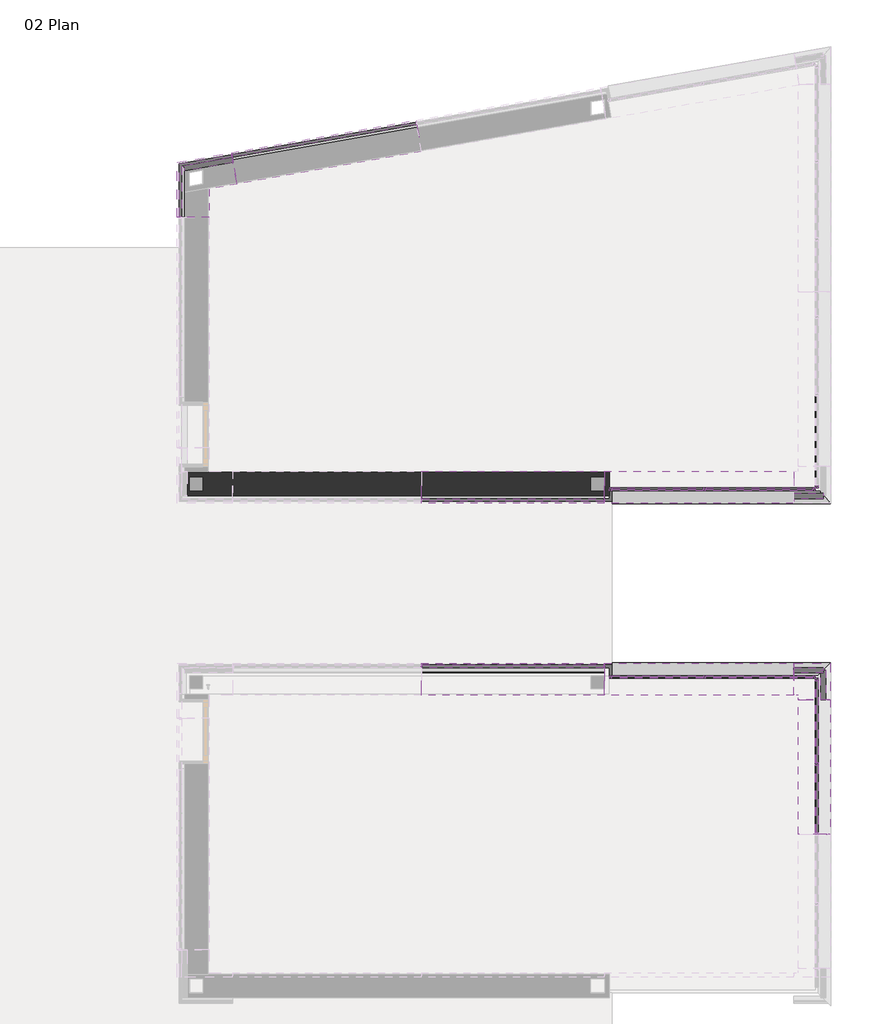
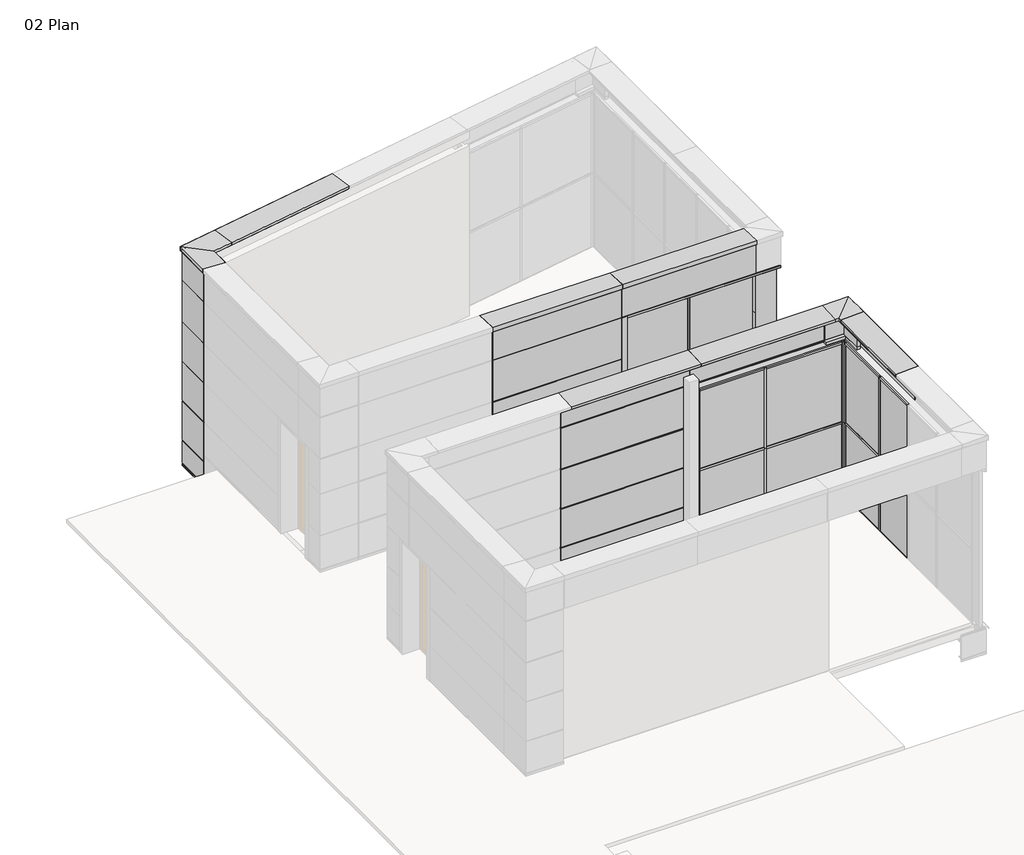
# One storey, part 4 of 6: 61 plates, 37 members, 1 wall.
"""IFC4 building model written with IfcOpenShell, lengths in millimetres."""

from ifc_helpers import new_model, si_unit, origin, place, context, project, spatial, faceted_brep, transform, mapped, element, save
from components import rectangular_mullion_850a0757, rectangular_mullion_f6f2cbce, rectangular_mullion_ae489d37, rectangular_mullion_d40b3f67, rectangular_mullion_73658c05, rectangular_mullion_dec3059a, rectangular_mullion_8c95c825, rectangular_mullion_4ec2ad2f, rectangular_mullion_5c014fa2, rectangular_mullion_20e4ea45, rectangular_mullion_1e400ac7, rectangular_mullion_d3216087, rectangular_mullion_e5955efa, rectangular_mullion_9c751ba5, rectangular_mullion_915eebd7, rectangular_mullion_7ea7b6c0, rectangular_mullion_18d90422, rectangular_mullion_4bf08ba9, rectangular_mullion_1d8641f2, rectangular_mullion_ccb72c30, rectangular_mullion_8513d4ac, rectangular_mullion_322f0c36, rectangular_mullion_68da8427, rectangular_mullion_97cb3080, rectangular_mullion_081bc27d, rectangular_mullion_9cc617ca, rectangular_mullion_58775510, rectangular_mullion_3e4a82b6, rectangular_mullion_f88d7aad, plate_0497feba, plate_c64032ae, plate_704d47aa, plate_30a3f86a, plate_11fb3f57, plate_91b26778, plate_29d679cd, plate_2e54694b, plate_18e4d27f, plate_f7d04e19, plate_cf421904, plate_abbbe2c7, plate_b156121b, plate_823f188f, plate_e577e1e9, plate_9de24f4d, plate_b22128cc, plate_28179449, plate_606b7d7a, plate_b5698dad, plate_fc41ddc2, plate_e0b0e254, plate_5e6c4082, plate_6787bb24, plate_fdcfd50b, plate_71536b31, plate_9f02b672, empty_system_panel_empty_c6afd72d, empty_system_panel_empty_4e5cc90e, empty_system_panel_empty_e38a5639, empty_system_panel_empty_b9b0326a, empty_system_panel_empty_57776d45, empty_system_panel_empty_753c3ce6, empty_system_panel_empty_65695ee9, empty_system_panel_empty_4853594d, empty_system_panel_empty_b67399a0, empty_system_panel_empty_cdaa3545, empty_system_panel_empty_c7119242, empty_system_panel_empty_4b1068c0, empty_system_panel_empty_4c92e43b, system_panel_916e9981, system_panel_173fee60, system_panel_1ba0b192, system_panel_117f5864, system_panel_15604cb6, system_panel_7d814cf8, system_panel_043df903, system_panel_e44423fa, system_panel_fa37fecd, system_panel_72380739, system_panel_35b3a540, system_panel_2c5456f6

model = new_model("IFC4")

# Units and contexts
model_context = context("Model", 3, world=origin())
ifc_project = project(units=[si_unit("LENGTHUNIT", "METRE", prefix="MILLI")], contexts=[model_context])

# Site, building, storey
site = spatial("IfcSite", under=ifc_project)
building = spatial("IfcBuilding", under=site)
storey = spatial("IfcBuildingStorey", under=building, Name="02 Plan", Elevation=0.0)

# Members
placement = place(None, origin())
rectangular_mullion_shape = rectangular_mullion_850a0757(model_context)
element("IfcMember", 1, ObjectType="Rectangular Mullion : Mullion_Curtain Wall_Generic Showcase_50x50mm", at=placement, inside=storey, context=model_context, shape_type="MappedRepresentation", body=[
    mapped(rectangular_mullion_shape, transform((7950.6615063, 2995.5895435, -100.0), x_axis=(1.0, 0.0, 0.0), y_axis=(0.0, -1.0, 0.0), z_axis=(0.0, 0.0, -1.0))),
])
element("IfcMember", 2, ObjectType="Rectangular Mullion : Mullion_Curtain Wall_Generic Showcase_50x50mm", at=placement, inside=storey, context=model_context, shape_type="MappedRepresentation", body=[
    mapped(rectangular_mullion_shape, transform((8000.6615063, 2945.5895435, 2075.0), x_axis=(0.0, 1.0, 0.0), y_axis=(-1.0, 0.0, 0.0), z_axis=(0.0, 0.0, 1.0))),
])
element("IfcMember", 3, ObjectType="Rectangular Mullion : Mullion_Curtain Wall_Generic Showcase_50x50mm", at=placement, inside=storey, context=model_context, shape_type="MappedRepresentation", body=[
    mapped(rectangular_mullion_shape, transform((4050.6615063, 2995.5895435, 2075.0), x_axis=(-1.0, 0.0, 0.0), y_axis=(0.0, -1.0, 0.0), z_axis=(0.0, 0.0, 1.0))),
])
rectangular_mullion_2_shape = rectangular_mullion_f6f2cbce(model_context)
element("IfcMember", 4, ObjectType="Rectangular Mullion : Mullion_Curtain Wall_Generic Showcase_50x50mm", at=placement, inside=storey, context=model_context, shape_type="MappedRepresentation", body=[
    mapped(rectangular_mullion_2_shape, transform((8000.6615063, 6545.5895435, 2075.0), x_axis=(0.0, -1.0, 0.0), y_axis=(1.0, 0.0, 0.0), z_axis=(0.0, 0.0, 1.0))),
])
rectangular_mullion_3_shape = rectangular_mullion_ae489d37(model_context)
element("IfcMember", 5, ObjectType="Rectangular Mullion : Mullion_Curtain Wall_Generic Showcase_50x50mm", at=placement, inside=storey, context=model_context, shape_type="MappedRepresentation", body=[
    mapped(rectangular_mullion_3_shape, transform((7950.6615063, 6495.5895435, -100.0), x_axis=(1.0, 0.0, 0.0), y_axis=(0.0, -1.0, 0.0), z_axis=(0.0, 0.0, -1.0))),
])
element("IfcMember", 6, ObjectType="Rectangular Mullion : Mullion_Curtain Wall_Generic Showcase_50x50mm", at=placement, inside=storey, context=model_context, shape_type="MappedRepresentation", body=[
    mapped(rectangular_mullion_3_shape, transform((4050.6615063, 6495.5895435, 1975.0), x_axis=(-1.0, 0.0, 0.0), y_axis=(0.0, -1.0, 0.0), z_axis=(0.0, 0.0, 1.0))),
])
rectangular_mullion_4_shape = rectangular_mullion_d40b3f67(model_context)
element("IfcMember", 7, ObjectType="Rectangular Mullion : Mullion_Curtain Wall_Generic Showcase_50x50mm", at=placement, inside=storey, context=model_context, shape_type="MappedRepresentation", body=[
    mapped(rectangular_mullion_4_shape, transform((8000.6615063, 1320.5895435, -100.0), x_axis=(0.0, -1.0, 0.0), y_axis=(-1.0, 0.0, 0.0), z_axis=(0.0, 0.0, -1.0))),
])
element("IfcMember", 8, ObjectType="Rectangular Mullion : Mullion_Curtain Wall_Generic Showcase_50x50mm", at=placement, inside=storey, context=model_context, shape_type="MappedRepresentation", body=[
    mapped(rectangular_mullion_4_shape, transform((5850.6615063, 2995.5895435, -100.0), x_axis=(1.0, 0.0, 0.0), y_axis=(0.0, -1.0, 0.0), z_axis=(0.0, 0.0, -1.0))),
])
rectangular_mullion_5_shape = rectangular_mullion_73658c05(model_context)
element("IfcMember", 9, ObjectType="Rectangular Mullion : Mullion_Curtain Wall_Generic Showcase_50x50mm", at=placement, inside=storey, context=model_context, shape_type="MappedRepresentation", body=[
    mapped(rectangular_mullion_5_shape, transform((5825.6615063, 2995.5895435, 4350.0), x_axis=(0.0, 0.0, 1.0), y_axis=(0.0, -1.0, 0.0), z_axis=(1.0, 0.0, 0.0))),
])
rectangular_mullion_6_shape = rectangular_mullion_dec3059a(model_context)
element("IfcMember", 10, ObjectType="Rectangular Mullion : Mullion_Curtain Wall_Generic Showcase_50x100mm", at=placement, inside=storey, context=model_context, shape_type="MappedRepresentation", body=[
    mapped(rectangular_mullion_6_shape, transform((4100.6615063, 2995.5895435, -100.0), x_axis=(0.0, 0.0, -1.0), y_axis=(0.0, -1.0, 0.0), z_axis=(-1.0, 0.0, 0.0))),
])
rectangular_mullion_7_shape = rectangular_mullion_8c95c825(model_context)
element("IfcMember", 11, ObjectType="Rectangular Mullion : Mullion_Curtain Wall_Generic Showcase_50x50mm", at=placement, inside=storey, context=model_context, shape_type="MappedRepresentation", body=[
    mapped(rectangular_mullion_7_shape, transform((5825.6615063, 2995.5895435, 2075.0), x_axis=(0.0, 0.0, 1.0), y_axis=(0.0, -1.0, 0.0), z_axis=(1.0, 0.0, 0.0))),
])
rectangular_mullion_8_shape = rectangular_mullion_4ec2ad2f(model_context)
element("IfcMember", 12, ObjectType="Rectangular Mullion : Mullion_Curtain Wall_Generic Showcase_50x100mm", at=placement, inside=storey, context=model_context, shape_type="MappedRepresentation", body=[
    mapped(rectangular_mullion_8_shape, transform((4100.6615063, 6495.5895435, -100.0), x_axis=(0.0, 0.0, -1.0), y_axis=(0.0, -1.0, 0.0), z_axis=(-1.0, 0.0, 0.0))),
])
rectangular_mullion_9_shape = rectangular_mullion_5c014fa2(model_context)
element("IfcMember", 13, ObjectType="Rectangular Mullion : Mullion_Curtain Wall_Generic Showcase_50x50mm", at=placement, inside=storey, context=model_context, shape_type="MappedRepresentation", body=[
    mapped(rectangular_mullion_9_shape, transform((5825.6615063, 6495.5895435, 1975.0), x_axis=(0.0, 0.0, 1.0), y_axis=(0.0, -1.0, 0.0), z_axis=(1.0, 0.0, 0.0))),
])
rectangular_mullion_10_shape = rectangular_mullion_20e4ea45(model_context)
element("IfcMember", 14, ObjectType="Rectangular Mullion : Mullion_Curtain Wall_Generic Showcase_50x50mm", at=placement, inside=storey, context=model_context, shape_type="MappedRepresentation", body=[
    mapped(rectangular_mullion_10_shape, transform((5825.6615063, 6495.5895435, 4350.0), x_axis=(0.0, 0.0, 1.0), y_axis=(0.0, -1.0, 0.0), z_axis=(1.0, 0.0, 0.0))),
])
rectangular_mullion_11_shape = rectangular_mullion_1e400ac7(model_context)
element("IfcMember", 15, ObjectType="Rectangular Mullion : Mullion_Curtain Wall_Generic Showcase_50x50mm", at=placement, inside=storey, context=model_context, shape_type="MappedRepresentation", body=[
    mapped(rectangular_mullion_11_shape, transform((5850.6615063, 6495.5895435, -100.0), x_axis=(1.0, 0.0, 0.0), y_axis=(0.0, -1.0, 0.0), z_axis=(0.0, 0.0, -1.0))),
])
rectangular_mullion_12_shape = rectangular_mullion_d3216087(model_context)
element("IfcMember", 16, ObjectType="Rectangular Mullion : Mullion_Curtain Wall_Generic Showcase_50x50mm", at=placement, inside=storey, context=model_context, shape_type="MappedRepresentation", body=[
    mapped(rectangular_mullion_12_shape, transform((8000.6615063, 20.5895435, 4350.0), x_axis=(0.0, 0.0, 1.0), y_axis=(-1.0, 0.0, 0.0), z_axis=(0.0, -1.0, 0.0))),
])
rectangular_mullion_13_shape = rectangular_mullion_e5955efa(model_context)
element("IfcMember", 17, ObjectType="Rectangular Mullion : Mullion_Curtain Wall_Generic Showcase_50x100mm", at=placement, inside=storey, context=model_context, shape_type="MappedRepresentation", body=[
    mapped(rectangular_mullion_13_shape, transform((8000.6615063, 1295.5895435, -100.0), x_axis=(0.0, 0.0, -1.0), y_axis=(-1.0, 0.0, 0.0), z_axis=(0.0, 1.0, 0.0))),
])
rectangular_mullion_14_shape = rectangular_mullion_9c751ba5(model_context)
element("IfcMember", 18, ObjectType="Rectangular Mullion : Mullion_Curtain Wall_Generic Showcase_50x50mm", at=placement, inside=storey, context=model_context, shape_type="MappedRepresentation", body=[
    mapped(rectangular_mullion_14_shape, transform((8000.6615063, 20.5895435, 2075.0), x_axis=(0.0, 0.0, 1.0), y_axis=(-1.0, 0.0, 0.0), z_axis=(0.0, -1.0, 0.0))),
])
rectangular_mullion_15_shape = rectangular_mullion_915eebd7(model_context)
element("IfcMember", 19, ObjectType="Rectangular Mullion : Mullion_Curtain Wall_Generic Showcase_50x50mm", at=placement, inside=storey, context=model_context, shape_type="MappedRepresentation", body=[
    mapped(rectangular_mullion_15_shape, transform((4050.6615063, 2995.5895435, 4350.0), x_axis=(-1.0, 0.0, 0.0), y_axis=(0.0, -1.0, 0.0), z_axis=(0.0, 0.0, 1.0))),
])
element("IfcMember", 20, ObjectType="Rectangular Mullion : Mullion_Curtain Wall_Generic Showcase_50x50mm", at=placement, inside=storey, context=model_context, shape_type="MappedRepresentation", body=[
    mapped(rectangular_mullion_15_shape, transform((8000.6615063, 2945.5895435, 4350.0), x_axis=(0.0, 1.0, 0.0), y_axis=(-1.0, 0.0, 0.0), z_axis=(0.0, 0.0, 1.0))),
])
element("IfcMember", 21, ObjectType="Rectangular Mullion : Mullion_Curtain Wall_Generic Showcase_50x50mm", at=placement, inside=storey, context=model_context, shape_type="MappedRepresentation", body=[
    mapped(rectangular_mullion_15_shape, transform((7950.6615063, 2995.5895435, 2075.0), x_axis=(1.0, 0.0, 0.0), y_axis=(0.0, -1.0, 0.0), z_axis=(0.0, 0.0, -1.0))),
])
rectangular_mullion_16_shape = rectangular_mullion_7ea7b6c0(model_context)
element("IfcMember", 22, ObjectType="Rectangular Mullion : Mullion_Curtain Wall_Generic Showcase_50x50mm", at=placement, inside=storey, context=model_context, shape_type="MappedRepresentation", body=[
    mapped(rectangular_mullion_16_shape, transform((8000.6615063, 1320.5895435, 2075.0), x_axis=(0.0, -1.0, 0.0), y_axis=(-1.0, 0.0, 0.0), z_axis=(0.0, 0.0, -1.0))),
])
element("IfcMember", 23, ObjectType="Rectangular Mullion : Mullion_Curtain Wall_Generic Showcase_50x50mm", at=placement, inside=storey, context=model_context, shape_type="MappedRepresentation", body=[
    mapped(rectangular_mullion_16_shape, transform((5850.6615063, 2995.5895435, 2075.0), x_axis=(1.0, 0.0, 0.0), y_axis=(0.0, -1.0, 0.0), z_axis=(0.0, 0.0, -1.0))),
])
rectangular_mullion_17_shape = rectangular_mullion_18d90422(model_context)
element("IfcMember", 24, ObjectType="Rectangular Mullion : Mullion_Curtain Wall_Generic Showcase_50x50mm", at=placement, inside=storey, context=model_context, shape_type="MappedRepresentation", body=[
    mapped(rectangular_mullion_17_shape, transform((8000.6615063, 6545.5895435, 4350.0), x_axis=(0.0, -1.0, 0.0), y_axis=(1.0, 0.0, 0.0), z_axis=(0.0, 0.0, 1.0))),
])
rectangular_mullion_18_shape = rectangular_mullion_4bf08ba9(model_context)
element("IfcMember", 25, ObjectType="Rectangular Mullion : Mullion_Curtain Wall_Generic Showcase_50x50mm", at=placement, inside=storey, context=model_context, shape_type="MappedRepresentation", body=[
    mapped(rectangular_mullion_18_shape, transform((4050.6615063, 6495.5895435, 4350.0), x_axis=(-1.0, 0.0, 0.0), y_axis=(0.0, -1.0, 0.0), z_axis=(0.0, 0.0, 1.0))),
])
element("IfcMember", 26, ObjectType="Rectangular Mullion : Mullion_Curtain Wall_Generic Showcase_50x50mm", at=placement, inside=storey, context=model_context, shape_type="MappedRepresentation", body=[
    mapped(rectangular_mullion_18_shape, transform((7950.6615063, 6495.5895435, 1975.0), x_axis=(1.0, 0.0, 0.0), y_axis=(0.0, -1.0, 0.0), z_axis=(0.0, 0.0, -1.0))),
])
rectangular_mullion_19_shape = rectangular_mullion_1d8641f2(model_context)
element("IfcMember", 27, ObjectType="Rectangular Mullion : Mullion_Curtain Wall_Generic Showcase_50x50mm", at=placement, inside=storey, context=model_context, shape_type="MappedRepresentation", body=[
    mapped(rectangular_mullion_19_shape, transform((5850.6615063, 6495.5895435, 1975.0), x_axis=(1.0, 0.0, 0.0), y_axis=(0.0, -1.0, 0.0), z_axis=(0.0, 0.0, -1.0))),
])
rectangular_mullion_20_shape = rectangular_mullion_ccb72c30(model_context)
element("IfcMember", 28, ObjectType="Rectangular Mullion : Mullion_Curtain Wall_Generic Showcase_50x50mm", at=placement, inside=storey, context=model_context, shape_type="MappedRepresentation", body=[
    mapped(rectangular_mullion_20_shape, transform((7900.6615063, 2995.5895435, 4350.0), x_axis=(0.0, 0.0, 1.0), y_axis=(0.0, -1.0, 0.0), z_axis=(1.0, 0.0, 0.0))),
])
rectangular_mullion_21_shape = rectangular_mullion_8513d4ac(model_context)
element("IfcMember", 29, ObjectType="Rectangular Mullion : Mullion_Curtain Wall_Generic Showcase_50x100mm", at=placement, inside=storey, context=model_context, shape_type="MappedRepresentation", body=[
    mapped(rectangular_mullion_21_shape, transform((5875.6615063, 2995.5895435, -100.0), x_axis=(0.0, 0.0, -1.0), y_axis=(0.0, -1.0, 0.0), z_axis=(-1.0, 0.0, 0.0))),
])
rectangular_mullion_22_shape = rectangular_mullion_322f0c36(model_context)
element("IfcMember", 30, ObjectType="Rectangular Mullion : Mullion_Curtain Wall_Generic Showcase_50x50mm", at=placement, inside=storey, context=model_context, shape_type="MappedRepresentation", body=[
    mapped(rectangular_mullion_22_shape, transform((7900.6615063, 2995.5895435, 2075.0), x_axis=(0.0, 0.0, 1.0), y_axis=(0.0, -1.0, 0.0), z_axis=(1.0, 0.0, 0.0))),
])
rectangular_mullion_23_shape = rectangular_mullion_68da8427(model_context)
element("IfcMember", 31, ObjectType="Rectangular Mullion : Mullion_Curtain Wall_Generic Showcase_50x50mm", at=placement, inside=storey, context=model_context, shape_type="MappedRepresentation", body=[
    mapped(rectangular_mullion_23_shape, transform((8000.6615063, 1345.5895435, 4350.0), x_axis=(0.0, 0.0, 1.0), y_axis=(-1.0, 0.0, 0.0), z_axis=(0.0, -1.0, 0.0))),
])
rectangular_mullion_24_shape = rectangular_mullion_97cb3080(model_context)
element("IfcMember", 32, ObjectType="Rectangular Mullion : Mullion_Curtain Wall_Generic Showcase_50x100mm", at=placement, inside=storey, context=model_context, shape_type="MappedRepresentation", body=[
    mapped(rectangular_mullion_24_shape, transform((8000.6615063, 2895.5895435, -100.0), x_axis=(0.0, 0.0, -1.0), y_axis=(-1.0, 0.0, 0.0), z_axis=(0.0, 1.0, 0.0))),
])
rectangular_mullion_25_shape = rectangular_mullion_081bc27d(model_context)
element("IfcMember", 33, ObjectType="Rectangular Mullion : Mullion_Curtain Wall_Generic Showcase_50x50mm", at=placement, inside=storey, context=model_context, shape_type="MappedRepresentation", body=[
    mapped(rectangular_mullion_25_shape, transform((8000.6615063, 1345.5895435, 2075.0), x_axis=(0.0, 0.0, 1.0), y_axis=(-1.0, 0.0, 0.0), z_axis=(0.0, -1.0, 0.0))),
])
rectangular_mullion_26_shape = rectangular_mullion_9cc617ca(model_context)
element("IfcMember", 34, ObjectType="Rectangular Mullion : Mullion_Curtain Wall_Generic Showcase_50x100mm", at=placement, inside=storey, context=model_context, shape_type="MappedRepresentation", body=[
    mapped(rectangular_mullion_26_shape, transform((8000.6615063, 6595.5895435, -100.0), x_axis=(0.0, 0.0, -1.0), y_axis=(1.0, 0.0, 0.0), z_axis=(0.0, -1.0, 0.0))),
])
rectangular_mullion_27_shape = rectangular_mullion_58775510(model_context)
element("IfcMember", 35, ObjectType="Rectangular Mullion : Mullion_Curtain Wall_Generic Showcase_50x50mm", at=placement, inside=storey, context=model_context, shape_type="MappedRepresentation", body=[
    mapped(rectangular_mullion_27_shape, transform((7900.6615063, 6495.5895435, 4350.0), x_axis=(0.0, 0.0, 1.0), y_axis=(0.0, -1.0, 0.0), z_axis=(1.0, 0.0, 0.0))),
])
rectangular_mullion_28_shape = rectangular_mullion_3e4a82b6(model_context)
element("IfcMember", 36, ObjectType="Rectangular Mullion : Mullion_Curtain Wall_Generic Showcase_50x100mm", at=placement, inside=storey, context=model_context, shape_type="MappedRepresentation", body=[
    mapped(rectangular_mullion_28_shape, transform((5875.6615063, 6495.5895435, -100.0), x_axis=(0.0, 0.0, -1.0), y_axis=(0.0, -1.0, 0.0), z_axis=(-1.0, 0.0, 0.0))),
])
rectangular_mullion_29_shape = rectangular_mullion_f88d7aad(model_context)
element("IfcMember", 37, ObjectType="Rectangular Mullion : Mullion_Curtain Wall_Generic Showcase_50x50mm", at=placement, inside=storey, context=model_context, shape_type="MappedRepresentation", body=[
    mapped(rectangular_mullion_29_shape, transform((7900.6615063, 6495.5895435, 1975.0), x_axis=(0.0, 0.0, 1.0), y_axis=(0.0, -1.0, 0.0), z_axis=(1.0, 0.0, 0.0))),
])

# Plates
plate_shape = plate_0497feba(model_context)
element("IfcPlate", 38, ObjectType="Trimo_Qbiss Screen_L Corner Panel-HORIZONTAL : HR - B", at=placement, inside=storey, context=model_context, shape_type="MappedRepresentation", body=[
    mapped(plate_shape, transform((-3999.3384937, 12131.2945251, -750.0), x_axis=(0.0, 1.0, 0.0), y_axis=(-1.0, 0.0, 0.0), z_axis=(0.0, 0.0, 1.0))),
])
plate_2_shape = plate_c64032ae(model_context)
element("IfcPlate", 39, ObjectType="Trimo_Qbiss Screen_L Corner Panel-HORIZONTAL : HR - B", at=placement, inside=storey, context=model_context, shape_type="MappedRepresentation", body=[
    mapped(plate_2_shape, transform((-3999.3384937, 12131.2945251, 2125.0), x_axis=(0.0, 1.0, 0.0), y_axis=(-1.0, 0.0, 0.0), z_axis=(0.0, 0.0, 1.0))),
])
element("IfcPlate", 40, ObjectType="Trimo_Qbiss Screen_L Corner Panel-HORIZONTAL : HR - B", at=placement, inside=storey, context=model_context, shape_type="MappedRepresentation", body=[
    mapped(plate_2_shape, transform((-3999.3384937, 12131.2945251, 1012.5), x_axis=(0.0, 1.0, 0.0), y_axis=(-1.0, 0.0, 0.0), z_axis=(0.0, 0.0, 1.0))),
])
plate_3_shape = plate_704d47aa(model_context)
element("IfcPlate", 41, ObjectType="Trimo_Qbiss Screen_L Corner Panel-HORIZONTAL : HR - B", at=placement, inside=storey, context=model_context, shape_type="MappedRepresentation", body=[
    mapped(plate_3_shape, transform((-3999.3384937, 12131.2945251, 3237.5), x_axis=(0.0, 1.0, 0.0), y_axis=(-1.0, 0.0, 0.0), z_axis=(0.0, 0.0, 1.0))),
])
plate_4_shape = plate_30a3f86a(model_context)
element("IfcPlate", 42, ObjectType="Trimo_Qbiss Screen_L Corner Panel-HORIZONTAL : HR - B", at=placement, inside=storey, context=model_context, shape_type="MappedRepresentation", body=[
    mapped(plate_4_shape, transform((-3999.3384937, 12131.2945251, 4410.0), x_axis=(0.0, 1.0, 0.0), y_axis=(-1.0, 0.0, 0.0), z_axis=(0.0, 0.0, 1.0))),
])
plate_5_shape = plate_11fb3f57(model_context)
element("IfcPlate", 43, ObjectType="Trimo_Qbiss Screen_L Corner Panel-HORIZONTAL : HR - B", at=placement, inside=storey, context=model_context, shape_type="MappedRepresentation", body=[
    mapped(plate_5_shape, transform((7819.4115063, 3095.5895435, 4410.0), x_axis=(1.0, 0.0, 0.0), y_axis=(0.0, 1.0, 0.0), z_axis=(0.0, 0.0, 1.0))),
])
element("IfcPlate", 44, ObjectType="Trimo_Qbiss Screen_L Corner Panel-HORIZONTAL : HR - B", at=placement, inside=storey, context=model_context, shape_type="MappedRepresentation", body=[
    mapped(plate_2_shape, transform((-3999.3384937, 12131.2945251, -100.0), x_axis=(0.0, 1.0, 0.0), y_axis=(-1.0, 0.0, 0.0), z_axis=(0.0, 0.0, 1.0))),
])
plate_6_shape = plate_91b26778(model_context)
element("IfcPlate", 45, ObjectType="Trimo_Qbiss Screen_L Corner Panel-HORIZONTAL : HR - B", at=placement, inside=storey, context=model_context, shape_type="MappedRepresentation", body=[
    mapped(plate_6_shape, transform((7819.4115063, 3095.5895435, -750.0), x_axis=(1.0, 0.0, 0.0), y_axis=(0.0, 1.0, 0.0), z_axis=(0.0, 0.0, 1.0))),
])
plate_7_shape = plate_29d679cd(model_context)
element("IfcPlate", 46, ObjectType="Trimo_Qbiss Screen_Normal Panel-HORIZONTAL : HR - B", at=placement, inside=storey, context=model_context, shape_type="MappedRepresentation", body=[
    mapped(plate_7_shape, transform((-1337.4811819, 13064.9468064, -750.0), x_axis=(0.9848077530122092, 0.17364817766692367, 0.0), y_axis=(-0.17364817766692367, 0.9848077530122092, 0.0), z_axis=(0.0, 0.0, 1.0))),
])
plate_8_shape = plate_2e54694b(model_context)
element("IfcPlate", 47, ObjectType="Trimo_Qbiss Screen_Normal Panel-HORIZONTAL : HR - B", at=placement, inside=storey, context=model_context, shape_type="MappedRepresentation", body=[
    mapped(plate_8_shape, transform((-1337.4811819, 13064.9468064, -100.0), x_axis=(0.9848077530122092, 0.17364817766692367, 0.0), y_axis=(-0.17364817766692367, 0.9848077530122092, 0.0), z_axis=(0.0, 0.0, 1.0))),
])
element("IfcPlate", 48, ObjectType="Trimo_Qbiss Screen_Normal Panel-HORIZONTAL : HR - B", at=placement, inside=storey, context=model_context, shape_type="MappedRepresentation", body=[
    mapped(plate_8_shape, transform((-1337.4811819, 13064.9468064, 1012.5), x_axis=(0.9848077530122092, 0.17364817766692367, 0.0), y_axis=(-0.17364817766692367, 0.9848077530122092, 0.0), z_axis=(0.0, 0.0, 1.0))),
])
element("IfcPlate", 49, ObjectType="Trimo_Qbiss Screen_Normal Panel-HORIZONTAL : HR - B", at=placement, inside=storey, context=model_context, shape_type="MappedRepresentation", body=[
    mapped(plate_8_shape, transform((-1337.4811819, 13064.9468064, 2125.0), x_axis=(0.9848077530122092, 0.17364817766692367, 0.0), y_axis=(-0.17364817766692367, 0.9848077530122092, 0.0), z_axis=(0.0, 0.0, 1.0))),
])
plate_9_shape = plate_18e4d27f(model_context)
element("IfcPlate", 50, ObjectType="Trimo_Qbiss Screen_Normal Panel-HORIZONTAL : HR - B", at=placement, inside=storey, context=model_context, shape_type="MappedRepresentation", body=[
    mapped(plate_9_shape, transform((-1337.4811819, 13064.9468064, 4410.0), x_axis=(0.9848077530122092, 0.17364817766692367, 0.0), y_axis=(-0.17364817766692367, 0.9848077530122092, 0.0), z_axis=(0.0, 0.0, 1.0))),
])
plate_10_shape = plate_f7d04e19(model_context)
element("IfcPlate", 51, ObjectType="Trimo_Qbiss Screen_Normal Panel-HORIZONTAL : HR - B", at=placement, inside=storey, context=model_context, shape_type="MappedRepresentation", body=[
    mapped(plate_10_shape, transform((2220.6615063, 6395.5895435, 4410.0), x_axis=(-1.0, 0.0, 0.0), y_axis=(0.0, -1.0, 0.0), z_axis=(0.0, 0.0, 1.0))),
])
plate_11_shape = plate_cf421904(model_context)
element("IfcPlate", 52, ObjectType="Trimo_Qbiss Screen_Normal Panel-HORIZONTAL : HR - B", at=placement, inside=storey, context=model_context, shape_type="MappedRepresentation", body=[
    mapped(plate_11_shape, transform((2220.6615063, 6395.5895435, 100.0), x_axis=(-1.0, 0.0, 0.0), y_axis=(0.0, -1.0, 0.0), z_axis=(0.0, 0.0, 1.0))),
])
plate_12_shape = plate_abbbe2c7(model_context)
element("IfcPlate", 53, ObjectType="Trimo_Qbiss Screen_Normal Panel-HORIZONTAL : HR - B", at=placement, inside=storey, context=model_context, shape_type="MappedRepresentation", body=[
    mapped(plate_12_shape, transform((-1337.4811819, 13064.9468064, 3237.5), x_axis=(0.9848077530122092, 0.17364817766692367, 0.0), y_axis=(-0.17364817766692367, 0.9848077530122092, 0.0), z_axis=(0.0, 0.0, 1.0))),
])
plate_13_shape = plate_b156121b(model_context)
element("IfcPlate", 54, ObjectType="Trimo_Qbiss Screen_Normal Panel-HORIZONTAL : HR - B", at=placement, inside=storey, context=model_context, shape_type="MappedRepresentation", body=[
    mapped(plate_13_shape, transform((8100.6615063, 1264.3395435, -750.0), x_axis=(0.0, -1.0, 0.0), y_axis=(1.0, 0.0, 0.0), z_axis=(0.0, 0.0, 1.0))),
])
plate_14_shape = plate_823f188f(model_context)
element("IfcPlate", 55, ObjectType="Trimo_Qbiss Screen_Normal Panel-HORIZONTAL : HR - B", at=placement, inside=storey, context=model_context, shape_type="MappedRepresentation", body=[
    mapped(plate_14_shape, transform((8100.6615063, 1264.3395435, 4410.0), x_axis=(0.0, -1.0, 0.0), y_axis=(1.0, 0.0, 0.0), z_axis=(0.0, 0.0, 1.0))),
])
plate_15_shape = plate_e577e1e9(model_context)
element("IfcPlate", 56, ObjectType="Trimo_Qbiss Screen_Normal Panel-HORIZONTAL : HR - B", at=placement, inside=storey, context=model_context, shape_type="MappedRepresentation", body=[
    mapped(plate_15_shape, transform((5850.6615063, 6395.5895435, -750.0), x_axis=(-1.0, 0.0, 0.0), y_axis=(0.0, -1.0, 0.0), z_axis=(0.0, 0.0, 1.0))),
])
plate_16_shape = plate_9de24f4d(model_context)
element("IfcPlate", 57, ObjectType="Trimo_Qbiss Screen_Normal Panel-HORIZONTAL : HR - B", at=placement, inside=storey, context=model_context, shape_type="MappedRepresentation", body=[
    mapped(plate_16_shape, transform((5745.6615063, 6395.5895435, 4410.0), x_axis=(-1.0, 0.0, 0.0), y_axis=(0.0, -1.0, 0.0), z_axis=(0.0, 0.0, 1.0))),
])
plate_17_shape = plate_b22128cc(model_context)
element("IfcPlate", 58, ObjectType="Trimo_Qbiss Screen_Normal Panel-HORIZONTAL : HR - B", at=placement, inside=storey, context=model_context, shape_type="MappedRepresentation", body=[
    mapped(plate_17_shape, transform((2220.6615063, 6395.5895435, 3237.5), x_axis=(-1.0, 0.0, 0.0), y_axis=(0.0, -1.0, 0.0), z_axis=(0.0, 0.0, 1.0))),
])
plate_18_shape = plate_28179449(model_context)
element("IfcPlate", 59, ObjectType="Trimo_Qbiss Screen_Normal Panel-HORIZONTAL : HR - B", at=placement, inside=storey, context=model_context, shape_type="MappedRepresentation", body=[
    mapped(plate_18_shape, transform((2220.6615063, 6395.5895435, 2240.0), x_axis=(-1.0, 0.0, 0.0), y_axis=(0.0, -1.0, 0.0), z_axis=(0.0, 0.0, 1.0))),
])
plate_19_shape = plate_606b7d7a(model_context)
element("IfcPlate", 60, ObjectType="Trimo_Qbiss Screen_Normal Panel-HORIZONTAL : HR - B", at=placement, inside=storey, context=model_context, shape_type="MappedRepresentation", body=[
    mapped(plate_19_shape, transform((2220.6615063, 6395.5895435, 1070.0), x_axis=(-1.0, 0.0, 0.0), y_axis=(0.0, -1.0, 0.0), z_axis=(0.0, 0.0, 1.0))),
])
plate_20_shape = plate_b5698dad(model_context)
element("IfcPlate", 61, ObjectType="Trimo_Qbiss Screen_Normal Panel-HORIZONTAL : HR - B", at=placement, inside=storey, context=model_context, shape_type="MappedRepresentation", body=[
    mapped(plate_20_shape, transform((5745.2615063, 3095.5895435, -750.0), x_axis=(1.0, 0.0, 0.0), y_axis=(0.0, 1.0, 0.0), z_axis=(0.0, 0.0, 1.0))),
])
plate_21_shape = plate_fc41ddc2(model_context)
element("IfcPlate", 62, ObjectType="Trimo_Qbiss Screen_Normal Panel-HORIZONTAL : HR - B", at=placement, inside=storey, context=model_context, shape_type="MappedRepresentation", body=[
    mapped(plate_21_shape, transform((5745.2615063, 3095.5895435, 4410.0), x_axis=(1.0, 0.0, 0.0), y_axis=(0.0, 1.0, 0.0), z_axis=(0.0, 0.0, 1.0))),
])
plate_22_shape = plate_e0b0e254(model_context)
element("IfcPlate", 63, ObjectType="Trimo_Qbiss Screen_Normal Panel-HORIZONTAL : HR - B", at=placement, inside=storey, context=model_context, shape_type="MappedRepresentation", body=[
    mapped(plate_22_shape, transform((2220.2615063, 3095.5895435, 100.0), x_axis=(1.0, 0.0, 0.0), y_axis=(0.0, 1.0, 0.0), z_axis=(0.0, 0.0, 1.0))),
])
plate_23_shape = plate_5e6c4082(model_context)
element("IfcPlate", 64, ObjectType="Trimo_Qbiss Screen_Normal Panel-HORIZONTAL : HR - B", at=placement, inside=storey, context=model_context, shape_type="MappedRepresentation", body=[
    mapped(plate_23_shape, transform((2220.2615063, 3095.5895435, 1012.5), x_axis=(1.0, 0.0, 0.0), y_axis=(0.0, 1.0, 0.0), z_axis=(0.0, 0.0, 1.0))),
])
element("IfcPlate", 65, ObjectType="Trimo_Qbiss Screen_Normal Panel-HORIZONTAL : HR - B", at=placement, inside=storey, context=model_context, shape_type="MappedRepresentation", body=[
    mapped(plate_23_shape, transform((2220.2615063, 3095.5895435, 2125.0), x_axis=(1.0, 0.0, 0.0), y_axis=(0.0, 1.0, 0.0), z_axis=(0.0, 0.0, 1.0))),
])
plate_24_shape = plate_6787bb24(model_context)
element("IfcPlate", 66, ObjectType="Trimo_Qbiss Screen_Normal Panel-HORIZONTAL : HR - B", at=placement, inside=storey, context=model_context, shape_type="MappedRepresentation", body=[
    mapped(plate_24_shape, transform((2220.2615063, 3095.5895435, 3237.5), x_axis=(1.0, 0.0, 0.0), y_axis=(0.0, 1.0, 0.0), z_axis=(0.0, 0.0, 1.0))),
])
plate_25_shape = plate_fdcfd50b(model_context)
element("IfcPlate", 67, ObjectType="Trimo_Qbiss Screen_Normal Panel-HORIZONTAL : HR - B", at=placement, inside=storey, context=model_context, shape_type="MappedRepresentation", body=[
    mapped(plate_25_shape, transform((2220.2615063, 3095.5895435, 4410.0), x_axis=(1.0, 0.0, 0.0), y_axis=(0.0, 1.0, 0.0), z_axis=(0.0, 0.0, 1.0))),
])
plate_26_shape = plate_71536b31(model_context)
element("IfcPlate", 68, ObjectType="Trimo_Qbiss Screen_Wall Opening Trims-HORIZONTAL : HR - B", at=placement, inside=storey, context=model_context, shape_type="MappedRepresentation", body=[
    mapped(plate_26_shape, transform((5745.2615063, 3095.5895435, -100.0), x_axis=(1.0, 0.0, 0.0), y_axis=(0.0, 1.0, 0.0), z_axis=(0.0, 0.0, 1.0))),
])
plate_27_shape = plate_9f02b672(model_context)
element("IfcPlate", 69, ObjectType="Trimo_Qbiss Screen_Wall Opening Trims-HORIZONTAL : HR - B", at=placement, inside=storey, context=model_context, shape_type="MappedRepresentation", body=[
    mapped(plate_27_shape, transform((5745.6615063, 6395.5895435, -100.0), x_axis=(-1.0, 0.0, 0.0), y_axis=(0.0, -1.0, 0.0), z_axis=(0.0, 0.0, 1.0))),
])
empty_system_panel_empty_shape = empty_system_panel_empty_c6afd72d(model_context)
element("IfcPlate", 70, ObjectType="Empty System Panel : Empty", at=placement, inside=storey, context=model_context, shape_type="MappedRepresentation", body=[
    mapped(empty_system_panel_empty_shape, transform((-3542.0971598, 12676.2135274, 2125.0), x_axis=(0.9848077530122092, 0.17364817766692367, 0.0), y_axis=(-0.17364817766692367, 0.9848077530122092, 0.0), z_axis=(0.0, 0.0, 1.0))),
])
element("IfcPlate", 71, ObjectType="Empty System Panel : Empty", at=placement, inside=storey, context=model_context, shape_type="MappedRepresentation", body=[
    mapped(empty_system_panel_empty_shape, transform((-3542.0971598, 12676.2135274, 1012.5), x_axis=(0.9848077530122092, 0.17364817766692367, 0.0), y_axis=(-0.17364817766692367, 0.9848077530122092, 0.0), z_axis=(0.0, 0.0, 1.0))),
])
empty_system_panel_empty_2_shape = empty_system_panel_empty_4e5cc90e(model_context)
element("IfcPlate", 72, ObjectType="Empty System Panel : Empty", at=placement, inside=storey, context=model_context, shape_type="MappedRepresentation", body=[
    mapped(empty_system_panel_empty_2_shape, transform((7819.4115063, 6395.5895435, -750.0), x_axis=(-1.0, 0.0, 0.0), y_axis=(0.0, -1.0, 0.0), z_axis=(0.0, 0.0, 1.0))),
])
element("IfcPlate", 73, ObjectType="Empty System Panel : Empty", at=placement, inside=storey, context=model_context, shape_type="MappedRepresentation", body=[
    mapped(empty_system_panel_empty_2_shape, transform((8100.6615063, 2814.3395435, -750.0), x_axis=(0.0, -1.0, 0.0), y_axis=(1.0, 0.0, 0.0), z_axis=(0.0, 0.0, 1.0))),
])
empty_system_panel_empty_3_shape = empty_system_panel_empty_e38a5639(model_context)
element("IfcPlate", 74, ObjectType="Empty System Panel : Empty", at=placement, inside=storey, context=model_context, shape_type="MappedRepresentation", body=[
    mapped(empty_system_panel_empty_3_shape, transform((7819.4115063, 3095.5895435, 1012.5), x_axis=(1.0, 0.0, 0.0), y_axis=(0.0, 1.0, 0.0), z_axis=(0.0, 0.0, 1.0))),
])
element("IfcPlate", 75, ObjectType="Empty System Panel : Empty", at=placement, inside=storey, context=model_context, shape_type="MappedRepresentation", body=[
    mapped(empty_system_panel_empty_3_shape, transform((7819.4115063, 3095.5895435, 2125.0), x_axis=(1.0, 0.0, 0.0), y_axis=(0.0, 1.0, 0.0), z_axis=(0.0, 0.0, 1.0))),
])
empty_system_panel_empty_4_shape = empty_system_panel_empty_b9b0326a(model_context)
element("IfcPlate", 76, ObjectType="Empty System Panel : Empty", at=placement, inside=storey, context=model_context, shape_type="MappedRepresentation", body=[
    mapped(empty_system_panel_empty_4_shape, transform((8100.6615063, 2814.3395435, -100.0), x_axis=(0.0, -1.0, 0.0), y_axis=(1.0, 0.0, 0.0), z_axis=(0.0, 0.0, 1.0))),
])
empty_system_panel_empty_5_shape = empty_system_panel_empty_57776d45(model_context)
element("IfcPlate", 77, ObjectType="Empty System Panel : Empty", at=placement, inside=storey, context=model_context, shape_type="MappedRepresentation", body=[
    mapped(empty_system_panel_empty_5_shape, transform((7819.4115063, 6395.5895435, 4410.0), x_axis=(-1.0, 0.0, 0.0), y_axis=(0.0, -1.0, 0.0), z_axis=(0.0, 0.0, 1.0))),
])
element("IfcPlate", 78, ObjectType="Empty System Panel : Empty", at=placement, inside=storey, context=model_context, shape_type="MappedRepresentation", body=[
    mapped(empty_system_panel_empty_5_shape, transform((8100.6615063, 2814.3395435, 4410.0), x_axis=(0.0, -1.0, 0.0), y_axis=(1.0, 0.0, 0.0), z_axis=(0.0, 0.0, 1.0))),
])
empty_system_panel_empty_6_shape = empty_system_panel_empty_753c3ce6(model_context)
element("IfcPlate", 79, ObjectType="Empty System Panel : Empty", at=placement, inside=storey, context=model_context, shape_type="MappedRepresentation", body=[
    mapped(empty_system_panel_empty_6_shape, transform((7819.4115063, 3095.5895435, 3237.5), x_axis=(1.0, 0.0, 0.0), y_axis=(0.0, 1.0, 0.0), z_axis=(0.0, 0.0, 1.0))),
])
empty_system_panel_empty_7_shape = empty_system_panel_empty_65695ee9(model_context)
element("IfcPlate", 80, ObjectType="Empty System Panel : Empty", at=placement, inside=storey, context=model_context, shape_type="MappedRepresentation", body=[
    mapped(empty_system_panel_empty_7_shape, transform((7819.4115063, 3095.5895435, -100.0), x_axis=(1.0, 0.0, 0.0), y_axis=(0.0, 1.0, 0.0), z_axis=(0.0, 0.0, 1.0))),
])
empty_system_panel_empty_8_shape = empty_system_panel_empty_4853594d(model_context)
element("IfcPlate", 81, ObjectType="Empty System Panel : Empty", at=placement, inside=storey, context=model_context, shape_type="MappedRepresentation", body=[
    mapped(empty_system_panel_empty_8_shape, transform((7819.4115063, 6395.5895435, -100.0), x_axis=(-1.0, 0.0, 0.0), y_axis=(0.0, -1.0, 0.0), z_axis=(0.0, 0.0, 1.0))),
])
empty_system_panel_empty_9_shape = empty_system_panel_empty_b67399a0(model_context)
element("IfcPlate", 82, ObjectType="Empty System Panel : Empty", at=placement, inside=storey, context=model_context, shape_type="MappedRepresentation", body=[
    mapped(empty_system_panel_empty_9_shape, transform((7819.4115063, 6395.5895435, 2240.0), x_axis=(-1.0, 0.0, 0.0), y_axis=(0.0, -1.0, 0.0), z_axis=(0.0, 0.0, 1.0))),
])
empty_system_panel_empty_10_shape = empty_system_panel_empty_cdaa3545(model_context)
element("IfcPlate", 83, ObjectType="Empty System Panel : Empty", at=placement, inside=storey, context=model_context, shape_type="MappedRepresentation", body=[
    mapped(empty_system_panel_empty_10_shape, transform((7819.4115063, 6395.5895435, 1070.0), x_axis=(-1.0, 0.0, 0.0), y_axis=(0.0, -1.0, 0.0), z_axis=(0.0, 0.0, 1.0))),
])
empty_system_panel_empty_11_shape = empty_system_panel_empty_c7119242(model_context)
element("IfcPlate", 84, ObjectType="Empty System Panel : Empty", at=placement, inside=storey, context=model_context, shape_type="MappedRepresentation", body=[
    mapped(empty_system_panel_empty_11_shape, transform((2220.6615063, 6395.5895435, -750.0), x_axis=(-1.0, 0.0, 0.0), y_axis=(0.0, -1.0, 0.0), z_axis=(0.0, 0.0, 1.0))),
])
empty_system_panel_empty_12_shape = empty_system_panel_empty_4b1068c0(model_context)
element("IfcPlate", 85, ObjectType="Empty System Panel : Empty", at=placement, inside=storey, context=model_context, shape_type="MappedRepresentation", body=[
    mapped(empty_system_panel_empty_12_shape, transform((4058.1615063, 6395.5895435, -750.0), x_axis=(-1.0, 0.0, 0.0), y_axis=(0.0, -1.0, 0.0), z_axis=(0.0, 0.0, 1.0))),
])
empty_system_panel_empty_13_shape = empty_system_panel_empty_4c92e43b(model_context)
element("IfcPlate", 86, ObjectType="Empty System Panel : Empty", at=placement, inside=storey, context=model_context, shape_type="MappedRepresentation", body=[
    mapped(empty_system_panel_empty_13_shape, transform((2220.2615063, 3095.5895435, -750.0), x_axis=(1.0, 0.0, 0.0), y_axis=(0.0, 1.0, 0.0), z_axis=(0.0, 0.0, 1.0))),
])
system_panel_shape = system_panel_916e9981(model_context)
element("IfcPlate", 87, ObjectType="System Panel : Panel_Glazed_Generic Showcase_30mm", at=placement, inside=storey, context=model_context, shape_type="MappedRepresentation", body=[
    mapped(system_panel_shape, transform((4963.1615063, 2995.5895435, 0.0), x_axis=(1.0, 0.0, 0.0), y_axis=(0.0, 1.0, 0.0), z_axis=(0.0, 0.0, 1.0))),
])
system_panel_2_shape = system_panel_173fee60(model_context)
element("IfcPlate", 88, ObjectType="System Panel : Panel_Glazed_Generic Showcase_30mm", at=placement, inside=storey, context=model_context, shape_type="MappedRepresentation", body=[
    mapped(system_panel_2_shape, transform((4963.1615063, 6495.5895435, 0.0), x_axis=(1.0, 0.0, 0.0), y_axis=(0.0, 1.0, 0.0), z_axis=(0.0, 0.0, 1.0))),
])
system_panel_3_shape = system_panel_1ba0b192(model_context)
element("IfcPlate", 89, ObjectType="System Panel : Panel_Glazed_Generic Showcase_30mm", at=placement, inside=storey, context=model_context, shape_type="MappedRepresentation", body=[
    mapped(system_panel_3_shape, transform((8000.6615063, 658.0895435, 0.0), x_axis=(0.0, -1.0, 0.0), y_axis=(1.0, 0.0, 0.0), z_axis=(0.0, 0.0, 1.0))),
])
system_panel_4_shape = system_panel_117f5864(model_context)
element("IfcPlate", 90, ObjectType="System Panel : Panel_Glazed_Generic Showcase_30mm", at=placement, inside=storey, context=model_context, shape_type="MappedRepresentation", body=[
    mapped(system_panel_4_shape, transform((4963.1615063, 2995.5895435, 2100.0), x_axis=(1.0, 0.0, 0.0), y_axis=(0.0, 1.0, 0.0), z_axis=(0.0, 0.0, 1.0))),
])
system_panel_5_shape = system_panel_15604cb6(model_context)
element("IfcPlate", 91, ObjectType="System Panel : Panel_Glazed_Generic Showcase_30mm", at=placement, inside=storey, context=model_context, shape_type="MappedRepresentation", body=[
    mapped(system_panel_5_shape, transform((8000.6615063, 658.0895435, 2100.0), x_axis=(0.0, -1.0, 0.0), y_axis=(1.0, 0.0, 0.0), z_axis=(0.0, 0.0, 1.0))),
])
system_panel_6_shape = system_panel_7d814cf8(model_context)
element("IfcPlate", 92, ObjectType="System Panel : Panel_Glazed_Generic Showcase_30mm", at=placement, inside=storey, context=model_context, shape_type="MappedRepresentation", body=[
    mapped(system_panel_6_shape, transform((4963.1615063, 6495.5895435, 2000.0), x_axis=(1.0, 0.0, 0.0), y_axis=(0.0, 1.0, 0.0), z_axis=(0.0, 0.0, 1.0))),
])
system_panel_7_shape = system_panel_043df903(model_context)
element("IfcPlate", 93, ObjectType="System Panel : Panel_Glazed_Generic Showcase_30mm", at=placement, inside=storey, context=model_context, shape_type="MappedRepresentation", body=[
    mapped(system_panel_7_shape, transform((8000.6615063, 2120.5895435, 0.0), x_axis=(0.0, -1.0, 0.0), y_axis=(1.0, 0.0, 0.0), z_axis=(0.0, 0.0, 1.0))),
])
system_panel_8_shape = system_panel_e44423fa(model_context)
element("IfcPlate", 94, ObjectType="System Panel : Panel_Glazed_Generic Showcase_30mm", at=placement, inside=storey, context=model_context, shape_type="MappedRepresentation", body=[
    mapped(system_panel_8_shape, transform((8000.6615063, 2120.5895435, 2100.0), x_axis=(0.0, -1.0, 0.0), y_axis=(1.0, 0.0, 0.0), z_axis=(0.0, 0.0, 1.0))),
])
system_panel_9_shape = system_panel_fa37fecd(model_context)
element("IfcPlate", 95, ObjectType="System Panel : Panel_Glazed_Generic Showcase_30mm", at=placement, inside=storey, context=model_context, shape_type="MappedRepresentation", body=[
    mapped(system_panel_9_shape, transform((6888.1615063, 2995.5895435, 0.0), x_axis=(1.0, 0.0, 0.0), y_axis=(0.0, 1.0, 0.0), z_axis=(0.0, 0.0, 1.0))),
])
system_panel_10_shape = system_panel_72380739(model_context)
element("IfcPlate", 96, ObjectType="System Panel : Panel_Glazed_Generic Showcase_30mm", at=placement, inside=storey, context=model_context, shape_type="MappedRepresentation", body=[
    mapped(system_panel_10_shape, transform((6888.1615063, 2995.5895435, 2100.0), x_axis=(1.0, 0.0, 0.0), y_axis=(0.0, 1.0, 0.0), z_axis=(0.0, 0.0, 1.0))),
])
system_panel_11_shape = system_panel_35b3a540(model_context)
element("IfcPlate", 97, ObjectType="System Panel : Panel_Glazed_Generic Showcase_30mm", at=placement, inside=storey, context=model_context, shape_type="MappedRepresentation", body=[
    mapped(system_panel_11_shape, transform((6888.1615063, 6495.5895435, 0.0), x_axis=(1.0, 0.0, 0.0), y_axis=(0.0, 1.0, 0.0), z_axis=(0.0, 0.0, 1.0))),
])
system_panel_12_shape = system_panel_2c5456f6(model_context)
element("IfcPlate", 98, ObjectType="System Panel : Panel_Glazed_Generic Showcase_30mm", at=placement, inside=storey, context=model_context, shape_type="MappedRepresentation", body=[
    mapped(system_panel_12_shape, transform((6888.1615063, 6495.5895435, 2000.0), x_axis=(1.0, 0.0, 0.0), y_axis=(0.0, 1.0, 0.0), z_axis=(0.0, 0.0, 1.0))),
])

# Wall
element("IfcWall", 99, ObjectType="Wall_Exterior_Generic Showcase_450mm", at=placement, inside=storey, context=model_context, shape_type="Brep", body=[
    faceted_brep([(-3999.3384937, 6845.5895435, 5300.0), (-3549.3384937, 6845.5895435, 5300.0), (4050.6615063, 6845.5895435, 5300.0), (4050.6615063, 6845.5895435, 5000.0), (-3549.3384937, 6845.5895435, 5000.0), (-3899.3384937, 6845.5895435, 5000.0), (-3899.3384937, 6845.5895435, 4400.0), (-3649.3384937, 6845.5895435, 4400.0), (-3649.3384937, 6845.5895435, 4800.0), (-3549.3384937, 6845.5895435, 4800.0), (4050.6615063, 6845.5895435, 4800.0), (4050.6615063, 6845.5895435, 4350.0), (4050.6615063, 6845.5895435, 0.0), (3950.6615063, 6845.5895435, 0.0), (3600.6615063, 6845.5895435, 0.0), (3600.6615063, 6845.5895435, -100.0), (-3549.3384937, 6845.5895435, -100.0), (-3899.3384937, 6845.5895435, -100.0), (-3899.3384937, 6845.5895435, 0.0), (-3899.3384937, 6845.5895435, 100.0), (-3999.3384937, 6845.5895435, 100.0), (4050.6615063, 6395.5895435, 100.0), (4050.6615063, 6395.5895435, 4350.0), (4050.6615063, 6395.5895435, 5300.0), (-3999.3384937, 6395.5895435, 5300.0), (-3999.3384937, 6395.5895435, 100.0), (4050.6615063, 6495.5895435, 100.0), (4050.6615063, 6495.5895435, 0.0), (4050.6615063, 6545.5895435, 0.0), (4050.6615063, 6745.5895435, 4800.0), (4050.6615063, 6745.5895435, 4400.0), (4050.6615063, 6495.5895435, 4400.0), (4050.6615063, 6495.5895435, 5000.0), (4050.6615063, 6495.5895435, 5300.0), (-3999.3384937, 6495.5895435, 5300.0), (-3649.3384937, 6745.5895435, 4800.0), (3700.6615063, 6745.5895435, 4800.0), (3950.6615063, 6745.5895435, 4800.0), (-3899.3384937, 6495.5895435, 5000.0), (3950.6615063, 6495.5895435, 4400.0), (3950.6615063, 6495.5895435, 100.0), (3700.6615063, 6495.5895435, 100.0), (3700.6615063, 6495.5895435, 4400.0), (-3649.3384937, 6495.5895435, 4400.0), (-3649.3384937, 6495.5895435, 100.0), (-3899.3384937, 6495.5895435, 100.0), (-3899.3384937, 6495.5895435, 4800.0), (-3899.3384937, 6745.5895435, 100.0), (-3899.3384937, 6745.5895435, 4400.0), (-3649.3384937, 6745.5895435, 4400.0), (-3649.3384937, 6745.5895435, -100.0), (-3649.3384937, 6495.5895435, -100.0), (-3649.3384937, 6495.5895435, 0.0), (-3649.3384937, 6620.5895435, 4400.0), (3700.6615063, 6745.5895435, 4400.0), (3700.6615063, 6745.5895435, 0.0), (3950.6615063, 6745.5895435, 0.0), (3950.6615063, 6745.5895435, 4400.0), (-3899.3384937, 6745.5895435, 0.0), (-3899.3384937, 6745.5895435, -100.0), (3950.6615063, 6495.5895435, 0.0), (3700.6615063, 6495.5895435, 0.0), (3600.6615063, 6495.5895435, 0.0), (3600.6615063, 6495.5895435, -100.0)], [[[0, 1, 2, 3, 4, 5, 6, 7, 8, 9, 10, 11, 12, 13, 14, 15, 16, 17, 18, 19, 20]], [[21, 22, 23, 24, 25]], [[23, 22, 21, 26, 27, 28, 12, 11, 10, 29, 30, 31, 32, 3, 2, 33]], [[25, 24, 34, 0, 20]], [[29, 10, 9, 8, 35, 36, 37]], [[32, 38, 5, 4, 3]], [[38, 32, 31, 39, 40, 41, 42, 43, 44, 45, 46]], [[5, 38, 46, 45, 47, 48, 6]], [[49, 50, 51, 52, 44, 43, 53]], [[30, 29, 37, 36, 35, 49, 54, 55, 56, 57]], [[50, 49, 48, 47, 58, 59]], [[39, 57, 56, 60, 40]], [[54, 42, 41, 61, 55]], [[31, 30, 57, 39]], [[42, 54, 49, 53, 43]], [[8, 7, 49, 35]], [[7, 6, 48, 49]], [[14, 62, 63, 15]], [[51, 50, 59, 17, 16, 15, 63]], [[26, 40, 60, 27]], [[41, 44, 52, 51, 63, 62, 61]], [[26, 21, 25, 20, 19, 47, 45, 44, 41, 40]], [[17, 59, 58, 47, 19, 18]], [[2, 1, 0, 34, 33]], [[34, 24, 23, 33]], [[62, 14, 13, 56, 55, 61]], [[56, 13, 12, 28, 27, 60]]]),
])

save(model, "model.ifc")
